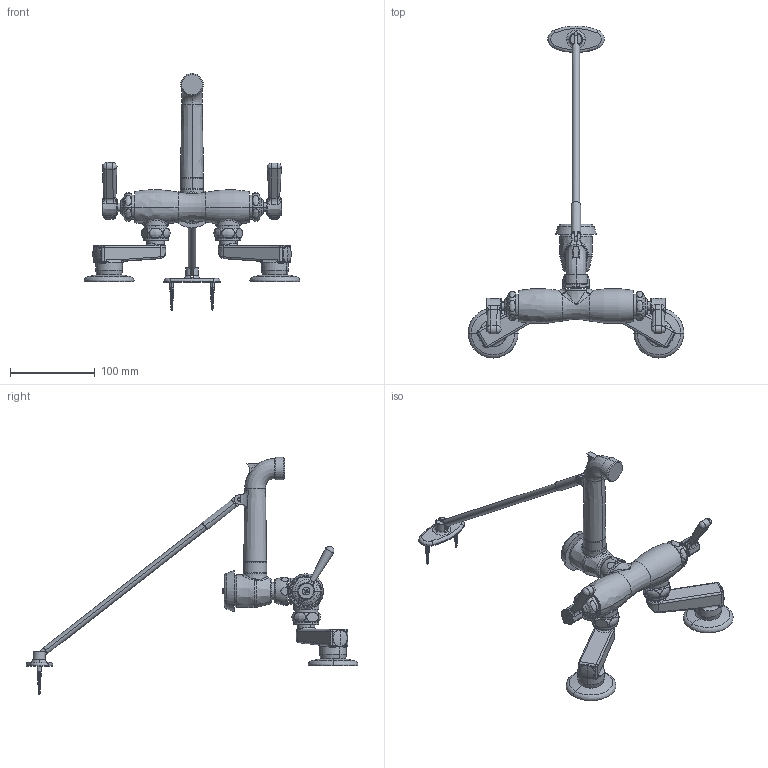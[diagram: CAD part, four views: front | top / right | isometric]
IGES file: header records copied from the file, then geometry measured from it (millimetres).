
Start section:  PTC IGES file: 445-r897srcf_sw0001.igs
Global section: file name: 445-r897srcf_sw0001.igs; native system: Pro/ENGINEER by Parametric Technology Corporation; preprocessor: 2009230; author: jrodriguez; organization: Unknown; date: 20100316.122657; units: inch
Bounding box: 254.58 x 391.85 x 279.97 mm (x, y, z)
Surface area: 116946.5 mm2 (no closed solid volume)
Topology: 0 solids, 55 shells, 574 faces, 1480 edges, 922 vertices
Faces by surface type: revolution 309, bspline 265
